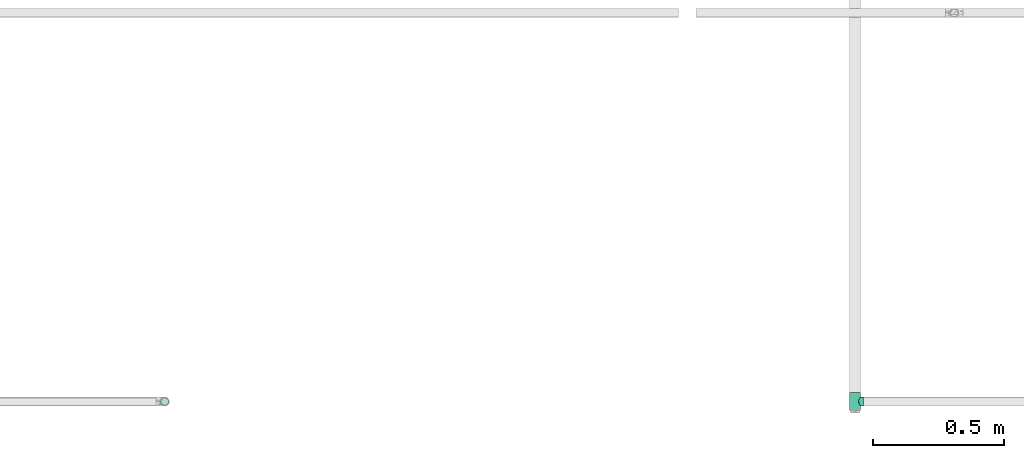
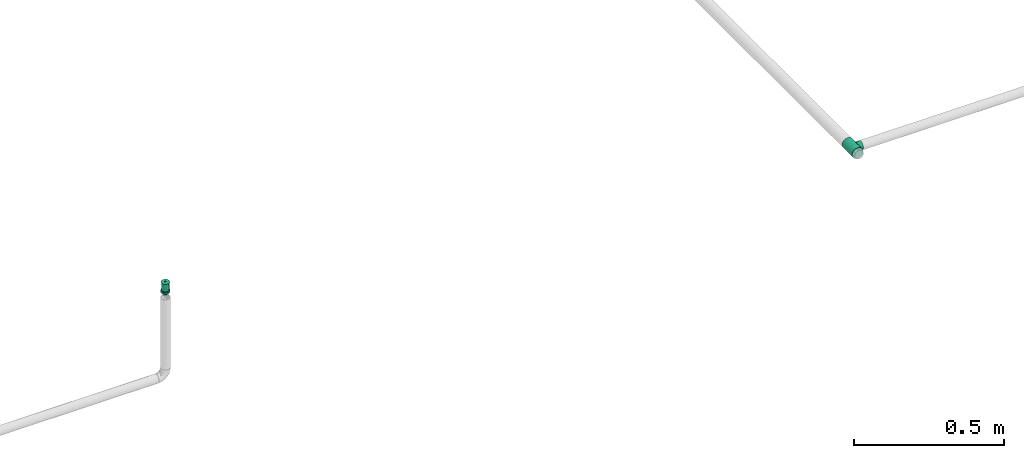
# One storey, part 24 of 63: 1 flow fitting, 1 flow terminal.
"""IFC2X3 building model written with IfcOpenShell, lengths in millimetres."""

from ifc_helpers import new_model, entity, si_unit, converted_unit, derived_unit, direction, frame, origin_with_axes, place, context, subcontext, project, spatial, open_shell, surface_model, source, transform, mapped, type_object, element, save


model = new_model("IFC2X3")

# Units and contexts
model_context = context("Model", 3, precision=0.01, world=frame((0.0, 4.29681676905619e-09, 0.0)), true_north=direction((4.01073788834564e-13, 1.0)))
plan_context = context("Plan", 3, precision=0.01, world=frame((0.0, 4.29681676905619e-09, 0.0)), true_north=direction((4.01073788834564e-13, 1.0)))
body_context = subcontext(model_context, "Body", "Model", "MODEL_VIEW")
ifc_project = project(units=[converted_unit("PLANEANGLEUNIT", "DEGREE", entity("IfcPositiveLengthMeasure", 0.0174532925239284), si_unit("PLANEANGLEUNIT", "RADIAN"), dimensions=[0, 0, 0, 0, 0, 0, 0]), si_unit("AREAUNIT", "SQUARE_METRE"), si_unit("LENGTHUNIT", "METRE", prefix="MILLI"), si_unit("MASSUNIT", "GRAM", prefix="KILO"), si_unit("POWERUNIT", "WATT"), si_unit("PRESSUREUNIT", "PASCAL", prefix="KILO"), si_unit("FORCEUNIT", "NEWTON", prefix="KILO"), si_unit("ELECTRICVOLTAGEUNIT", "VOLT"), si_unit("ELECTRICCURRENTUNIT", "AMPERE"), si_unit("THERMODYNAMICTEMPERATUREUNIT", "DEGREE_CELSIUS"), si_unit("TIMEUNIT", "SECOND"), si_unit("VOLUMEUNIT", "CUBIC_METRE"), derived_unit("LINEARVELOCITYUNIT", [(si_unit("LENGTHUNIT", "METRE"), 1), (si_unit("TIMEUNIT", "SECOND"), -1)]), derived_unit("VOLUMETRICFLOWRATEUNIT", [(si_unit("VOLUMEUNIT", "CUBIC_METRE"), 1), (si_unit("TIMEUNIT", "SECOND"), -1)]), derived_unit("THERMALTRANSMITTANCEUNIT", [(si_unit("POWERUNIT", "WATT"), 1), (si_unit("THERMODYNAMICTEMPERATUREUNIT", "KELVIN"), -1), (si_unit("AREAUNIT", "SQUARE_METRE"), -1)]), derived_unit("SOUNDPRESSUREUNIT", [(si_unit("PRESSUREUNIT", "PASCAL"), 1)])], contexts=[model_context, plan_context])

# Site, building, storey
site_placement = place(None, frame((0.0, -4.29681676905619e-09, 0.0), z_axis=(0.0, 0.0, 1.0), x_axis=(1.0, 0.0, 0.0)))
site = spatial("IfcSite", under=ifc_project, at=site_placement, CompositionType="ELEMENT")
building_placement = place(site_placement, frame((0.0, 4.29681676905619e-09, 0.0), z_axis=(0.0, 0.0, 1.0), x_axis=(1.0, 0.0, 0.0)))
building = spatial("IfcBuilding", under=site, at=building_placement, Name="mc-building", CompositionType="ELEMENT")
storey_placement = place(building_placement, frame((0.0, 0.0, 207370.0), z_axis=(0.0, 0.0, 1.0), x_axis=(1.0, 0.0, 0.0)))
storey = spatial("IfcBuildingStorey", under=building, at=storey_placement, Name="Nivå E", CompositionType="ELEMENT", Elevation=207370.0)

# Flow fitting
pipe_fitting_type = type_object("IfcPipeFittingType", Name="magi_pipe_fe_tee_centric_90_NOR", PredefinedType="JUNCTION")
shared_shape_1 = source(origin_with_axes(), body_context, "Body", "SurfaceModel", [
    surface_model("IfcShellBasedSurfaceModel", [(-33.8, 0.0, -21.2), (-33.8, -5.48696, -20.47763), (-33.8, 5.48696, -20.47763), (-33.8, 10.6, -18.35974), (-33.8, 14.99066, -14.99066), (-33.8, -20.47763, 5.48696), (-33.8, 18.35974, -10.6), (-33.8, 10.6, 18.35974), (-33.8, -14.99066, -14.99066), (-33.8, -18.35974, -10.6), (-33.8, -10.6, -18.35974), (-33.8, -20.47763, -5.48696), (-33.8, -21.2, 0.0), (-33.8, 18.35974, 10.6), (-33.8, 20.47763, -5.48696), (-33.8, 20.47763, 5.48696), (-33.8, 21.2, 0.0), (-33.8, 14.99066, 14.99066), (-33.8, 5.48696, 20.47763), (-33.8, 0.0, 21.2), (-33.8, -18.35974, 10.6), (-33.8, -14.99066, 14.99066), (-33.8, -10.6, 18.35974), (-33.8, -5.48696, 20.47763), (33.8, 5.48696, -20.47763), (33.8, -5.48696, -20.47763), (33.8, 0.0, -21.2), (33.8, 14.99066, -14.99066), (33.8, 10.6, -18.35974), (33.8, 18.35974, -10.6), (33.8, 20.47763, -5.48696), (33.8, -21.2, 0.0), (33.8, -10.6, -18.35974), (33.8, -18.35974, -10.6), (33.8, -14.99066, -14.99066), (33.8, -20.47763, -5.48696), (33.8, -20.47763, 5.48696), (33.8, 21.2, 0.0), (33.8, 20.47763, 5.48696), (33.8, 18.35974, 10.6), (33.8, 10.6, 18.35974), (33.8, 14.99066, 14.99066), (33.8, 0.0, 21.2), (33.8, 5.48696, 20.47763), (33.8, -14.99066, 14.99066), (33.8, -18.35974, 10.6), (33.8, -10.6, 18.35974), (33.8, -5.48696, 20.47763), (16.9, -21.2, 0.0), (15.78624, -20.32327, 6.03364), (12.81343, -18.11115, 11.01935), (8.52479, -15.37862, 14.59239), (3.07939, -13.16482, 16.61708), (-16.9, -21.2, 0.0), (-15.78686, -20.32375, 6.032), (-8.52604, -15.37932, 14.59166), (-3.0848, -13.16609, 16.61608), (-12.81602, -18.11299, 11.01634), (3.07939, -13.16482, -16.61708), (12.81343, -18.11115, -11.01935), (8.52479, -15.37862, -14.59239), (15.78624, -20.32327, -6.03364), (-3.0848, -13.16609, -16.61608), (-8.52604, -15.37932, -14.59166), (-12.81602, -18.11299, -11.01634), (-15.78686, -20.32375, -6.032), (4.37404, -31.8, -16.32415), (-16.9, -31.8, 0.0), (0.0, -31.8, -16.9), (14.63583, -31.8, -8.45), (8.45, -31.8, -14.63583), (16.32415, -31.8, -4.37404), (11.9501, -31.8, -11.9501), (-11.9501, -31.8, -11.9501), (-8.45, -31.8, -14.63583), (-4.37404, -31.8, -16.32415), (-14.63583, -31.8, -8.45), (-16.32415, -31.8, -4.37404), (16.9, -31.8, 0.0), (8.45, -31.8, 14.63583), (16.32415, -31.8, 4.37404), (14.63583, -31.8, 8.45), (-8.45, -31.8, 14.63583), (11.9501, -31.8, 11.9501), (4.37404, -31.8, 16.32415), (-16.32415, -31.8, 4.37404), (-11.9501, -31.8, 11.9501), (-14.63583, -31.8, 8.45), (0.0, -31.8, 16.9), (-4.37404, -31.8, 16.32415), (-16.34343, -20.76188, 3.016), (16.34312, -20.76163, 3.01682), (-0.00271, -13.16546, 16.61658), (16.34312, -20.76163, -3.01682), (-0.00271, -13.16546, -16.61658), (-16.34343, -20.76188, -3.016)], [open_shell([[[0, 1, 2]], [[3, 2, 4]], [[5, 2, 1]], [[4, 2, 6]], [[6, 2, 7]], [[8, 9, 10]], [[1, 10, 9]], [[9, 11, 1]], [[12, 1, 11]], [[5, 1, 12]], [[13, 14, 6]], [[13, 15, 16]], [[6, 7, 13]], [[5, 7, 2]], [[17, 13, 7]], [[18, 7, 19]], [[20, 21, 5]], [[22, 5, 21]], [[23, 19, 22]], [[7, 5, 22]], [[22, 19, 7]], [[16, 14, 13]], [[24, 25, 26]], [[27, 24, 28]], [[29, 30, 24]], [[29, 24, 27]], [[31, 24, 30]], [[32, 33, 34]], [[33, 32, 25]], [[33, 31, 35]], [[31, 33, 25]], [[25, 24, 31]], [[30, 36, 31]], [[37, 38, 39]], [[37, 39, 40]], [[37, 40, 36]], [[40, 39, 41]], [[42, 40, 43]], [[36, 44, 45]], [[44, 36, 46]], [[46, 42, 47]], [[46, 36, 40]], [[40, 42, 46]], [[37, 36, 30]], [[31, 36, 48]], [[49, 48, 36]], [[36, 45, 49]], [[45, 44, 50]], [[51, 50, 44]], [[52, 51, 44]], [[44, 46, 52]], [[45, 50, 49]], [[53, 54, 5]], [[5, 12, 53]], [[54, 20, 5]], [[55, 56, 21]], [[20, 57, 21]], [[57, 20, 54]], [[21, 57, 55]], [[56, 22, 21]], [[52, 22, 56]], [[19, 47, 42]], [[23, 46, 47]], [[18, 42, 43]], [[39, 38, 15]], [[17, 40, 41]], [[13, 41, 39]], [[43, 40, 7]], [[16, 38, 37]], [[22, 46, 23]], [[23, 47, 19]], [[18, 19, 42]], [[43, 7, 18]], [[7, 40, 17]], [[13, 17, 41]], [[15, 13, 39]], [[38, 16, 15]], [[46, 22, 52]], [[6, 30, 29]], [[14, 37, 30]], [[4, 29, 27]], [[26, 25, 1]], [[2, 28, 24]], [[0, 24, 26]], [[27, 28, 3]], [[10, 25, 32]], [[16, 37, 14]], [[14, 30, 6]], [[4, 6, 29]], [[27, 3, 4]], [[3, 28, 2]], [[0, 2, 24]], [[1, 0, 26]], [[25, 10, 1]], [[32, 58, 10]], [[34, 59, 60]], [[59, 34, 33]], [[60, 58, 34]], [[34, 58, 32]], [[35, 31, 48]], [[35, 61, 33]], [[61, 35, 48]], [[33, 61, 59]], [[62, 63, 8]], [[8, 64, 9]], [[64, 8, 63]], [[62, 8, 10]], [[65, 53, 11]], [[65, 11, 9]], [[11, 53, 12]], [[65, 9, 64]], [[58, 62, 10]], [[66, 67, 68]], [[69, 66, 70]], [[69, 71, 66]], [[69, 70, 72]], [[67, 66, 71]], [[68, 73, 74]], [[74, 75, 68]], [[76, 67, 77]], [[73, 68, 76]], [[67, 76, 68]], [[71, 78, 67]], [[79, 78, 80]], [[79, 80, 81]], [[82, 67, 79]], [[79, 81, 83]], [[82, 79, 84]], [[85, 86, 87]], [[86, 85, 82]], [[82, 88, 89]], [[85, 67, 82]], [[84, 88, 82]], [[79, 67, 78]], [[85, 90, 67]], [[57, 87, 86]], [[85, 87, 54]], [[86, 82, 55]], [[85, 54, 90]], [[90, 53, 67]], [[54, 87, 57]], [[91, 49, 80]], [[55, 89, 56]], [[55, 57, 86]], [[88, 52, 92]], [[55, 82, 89]], [[52, 88, 84]], [[79, 51, 84]], [[50, 83, 81]], [[83, 51, 79]], [[81, 80, 49]], [[83, 50, 51]], [[51, 52, 84]], [[78, 91, 80]], [[49, 50, 81]], [[91, 78, 48]], [[88, 56, 89]], [[92, 56, 88]], [[71, 93, 78]], [[59, 69, 72]], [[71, 69, 61]], [[72, 70, 60]], [[93, 48, 78]], [[61, 69, 59]], [[60, 66, 58]], [[60, 59, 72]], [[68, 62, 94]], [[60, 70, 66]], [[95, 67, 53]], [[95, 65, 77]], [[71, 61, 93]], [[75, 62, 68]], [[65, 76, 77]], [[73, 76, 64]], [[68, 58, 66]], [[75, 63, 62]], [[63, 75, 74]], [[74, 73, 63]], [[63, 73, 64]], [[64, 76, 65]], [[67, 95, 77]], [[94, 58, 68]]])]),
])
flow_fitting_placement = place(storey_placement, frame((719641.29045, 434695.91689, 2700.0), z_axis=(0.0, 0.0, -1.0), x_axis=(0.0, -1.0, 0.0)))
element("IfcFlowFitting", 1, at=flow_fitting_placement, inside=storey, type_object=pipe_fitting_type, Name="magi_pipe_fe_tee_centric_90_NOR", context=body_context, shape_type="MappedRepresentation", body=[
    mapped(shared_shape_1, transform((0.0, 0.0, 0.0), scale=1.0)),
])

# Flow terminal
fire_suppression_terminal_type = type_object("IfcFireSuppressionTerminalType", Name="68DGR-STD-STÅENDE", PredefinedType="NOTDEFINED")
shared_shape_2 = source(origin_with_axes(), body_context, "Body", "SurfaceModel", [
    surface_model("IfcShellBasedSurfaceModel", [(3.36465, -12.55704, 51.0), (6.5, -11.25833, 51.0), (9.19239, -9.19239, 51.0), (12.55704, -3.36465, 51.0), (-11.25833, -6.5, 51.0), (11.25833, -6.5, 51.0), (-13.0, 0.0, 51.0), (0.0, -13.0, 51.0), (-6.5, -11.25833, 51.0), (-3.36465, -12.55704, 51.0), (-9.19239, -9.19239, 51.0), (-12.55704, -3.36465, 51.0), (13.0, 0.0, 51.0), (12.55704, 3.36465, 51.0), (11.25833, 6.5, 51.0), (9.19239, 9.19239, 51.0), (6.5, 11.25833, 51.0), (3.36465, 12.55704, 51.0), (0.0, 13.0, 51.0), (-3.36465, 12.55704, 51.0), (-12.55704, 3.36465, 51.0), (-9.19239, 9.19239, 51.0), (-11.25833, 6.5, 51.0), (-6.5, 11.25833, 51.0), (0.0, 13.0, 21.14766), (3.36465, 12.55704, 21.14766), (6.5, 11.25833, 21.14766), (-3.36465, 12.55704, 21.14766), (9.19239, 9.19239, 21.14766), (11.25833, 6.5, 21.14766), (12.55704, 3.36465, 21.14766), (-12.55704, 3.36465, 21.14766), (-11.25833, -6.5, 21.14766), (-9.19239, 9.19239, 21.14766), (-6.5, 11.25833, 21.14766), (-11.25833, 6.5, 21.14766), (-13.0, 0.0, 21.14766), (12.55704, -3.36465, 21.14766), (9.19239, -9.19239, 21.14766), (11.25833, -6.5, 21.14766), (6.5, -11.25833, 21.14766), (3.36465, -12.55704, 21.14766), (-6.5, -11.25833, 21.14766), (-9.19239, -9.19239, 21.14766), (-12.55704, -3.36465, 21.14766), (0.0, -13.0, 21.14766), (-3.36465, -12.55704, 21.14766), (13.0, 0.0, 21.14766), (7.24444, -1.94114, 0.1), (1.94114, -7.24444, 0.1), (3.75, -6.49519, 0.1), (5.3033, -5.3033, 0.1), (-5.3033, -5.3033, 0.1), (6.49519, -3.75, 0.1), (5.3033, 5.3033, 0.1), (0.0, -7.5, 0.1), (-3.75, -6.49519, 0.1), (-1.94114, -7.24444, 0.1), (-7.24444, -1.94114, 0.1), (-6.49519, -3.75, 0.1), (-7.24444, 1.94114, 0.1), (7.5, 0.0, 0.1), (6.49519, 3.75, 0.1), (-6.49519, 3.75, 0.1), (1.94114, 7.24444, 0.1), (0.0, 7.5, 0.1), (3.75, 6.49519, 0.1), (-7.5, 0.0, 0.1), (-5.3033, 5.3033, 0.1), (-1.94114, 7.24444, 0.1), (-3.75, 6.49519, 0.1), (7.24444, 1.94114, 0.1), (1.94114, 7.24444, -0.1), (-6.49519, 3.75, -0.1), (0.0, 7.5, -0.1), (5.3033, 5.3033, -0.1), (3.75, 6.49519, -0.1), (6.49519, 3.75, -0.1), (7.24444, 1.94114, -0.1), (-1.94114, 7.24444, -0.1), (-5.3033, 5.3033, -0.1), (-3.75, 6.49519, -0.1), (-7.24444, 1.94114, -0.1), (-7.24444, -1.94114, -0.1), (-7.5, 0.0, -0.1), (7.5, 0.0, -0.1), (7.24444, -1.94114, -0.1), (-5.3033, -5.3033, -0.1), (1.94114, -7.24444, -0.1), (6.49519, -3.75, -0.1), (5.3033, -5.3033, -0.1), (3.75, -6.49519, -0.1), (-6.49519, -3.75, -0.1), (-3.75, -6.49519, -0.1), (0.0, -7.5, -0.1), (-1.94114, -7.24444, -0.1), (0.0, -2.5, 51.0), (-2.5, 0.0, 51.0), (0.0, 2.5, 51.0), (2.5, 0.0, 51.0), (0.0, -16.0, 53.0), (11.31371, -11.31371, 53.0), (-11.31371, -11.31371, 53.0), (-16.0, 0.0, 53.0), (16.0, 0.0, 53.0), (11.31371, 11.31371, 53.0), (0.0, 16.0, 53.0), (-11.31371, 11.31371, 53.0), (1.25, -2.16506, 57.0), (0.0, -2.5, 57.0), (0.64705, -2.41481, 57.0), (2.41481, -0.64705, 57.0), (1.76777, -1.76777, 57.0), (-2.41481, -0.64705, 57.0), (-2.5, 0.0, 57.0), (2.16506, -1.25, 57.0), (-1.25, -2.16506, 57.0), (-0.64705, -2.41481, 57.0), (-1.76777, -1.76777, 57.0), (-2.16506, -1.25, 57.0), (2.5, 0.0, 57.0), (2.41481, 0.64705, 57.0), (2.16506, 1.25, 57.0), (1.76777, 1.76777, 57.0), (0.64705, 2.41481, 57.0), (1.25, 2.16506, 57.0), (-1.76777, 1.76777, 57.0), (0.0, 2.5, 57.0), (-2.16506, 1.25, 57.0), (-2.41481, 0.64705, 57.0), (-0.64705, 2.41481, 57.0), (-1.25, 2.16506, 57.0), (1.25, 2.16506, 51.0), (1.76777, 1.76777, 51.0), (1.15, 1.99186, 51.0), (0.59528, 2.22163, 51.0), (0.64705, 2.41481, 51.0), (0.0, 2.3, 51.0), (1.62635, 1.62635, 51.0), (2.41481, 0.64705, 51.0), (2.3, 0.0, 51.0), (2.22163, 0.59528, 51.0), (2.16506, 1.25, 51.0), (1.99186, 1.15, 51.0), (-0.59528, 2.22163, 51.0), (-0.64705, 2.41481, 51.0), (-1.15, 1.99186, 51.0), (-1.76777, 1.76777, 51.0), (-1.25, 2.16506, 51.0), (-1.62635, 1.62635, 51.0), (-1.99186, 1.15, 51.0), (-2.16506, 1.25, 51.0), (-2.22163, 0.59528, 51.0), (-2.41481, 0.64705, 51.0), (-2.3, 0.0, 51.0), (2.41481, -0.64705, 51.0), (2.22163, -0.59528, 51.0), (1.99186, -1.15, 51.0), (2.16506, -1.25, 51.0), (1.62635, -1.62635, 51.0), (1.76777, -1.76777, 51.0), (1.25, -2.16506, 51.0), (1.15, -1.99186, 51.0), (0.59528, -2.22163, 51.0), (0.64705, -2.41481, 51.0), (0.0, -2.3, 51.0), (-2.16506, -1.25, 51.0), (-1.99186, -1.15, 51.0), (-1.76777, -1.76777, 51.0), (-1.62635, -1.62635, 51.0), (-2.41481, -0.64705, 51.0), (-2.22163, -0.59528, 51.0), (-0.59528, -2.22163, 51.0), (-0.64705, -2.41481, 51.0), (-1.15, -1.99186, 51.0), (-1.25, -2.16506, 51.0), (1.62635, -1.62635, 56.8), (1.15, -1.99186, 56.8), (0.59528, -2.22163, 56.8), (0.0, -2.3, 56.8), (2.22163, 0.59528, 56.8), (1.99186, -1.15, 56.8), (2.22163, -0.59528, 56.8), (-0.59528, -2.22163, 56.8), (-1.15, -1.99186, 56.8), (-1.62635, -1.62635, 56.8), (-1.99186, -1.15, 56.8), (-2.22163, -0.59528, 56.8), (-1.99186, 1.15, 56.8), (2.3, 0.0, 56.8), (1.62635, 1.62635, 56.8), (1.99186, 1.15, 56.8), (1.15, 1.99186, 56.8), (0.0, 2.3, 56.8), (0.59528, 2.22163, 56.8), (-2.22163, 0.59528, 56.8), (-2.3, 0.0, 56.8), (-1.15, 1.99186, 56.8), (-0.59528, 2.22163, 56.8), (-1.62635, 1.62635, 56.8), (4.1411, -15.45481, 19.0), (8.0, -13.85641, 19.0), (11.31371, -11.31371, 19.0), (-8.0, -13.85641, 19.0), (15.45481, -4.1411, 19.0), (16.0, 0.0, 19.0), (13.85641, -8.0, 19.0), (0.0, -16.0, 19.0), (-4.1411, -15.45481, 19.0), (-13.85641, -8.0, 19.0), (-11.31371, -11.31371, 19.0), (-15.45481, -4.1411, 19.0), (15.45481, 4.1411, 19.0), (13.85641, 8.0, 19.0), (11.31371, 11.31371, 19.0), (-4.1411, 15.45481, 19.0), (8.0, 13.85641, 19.0), (4.1411, 15.45481, 19.0), (0.0, 16.0, 19.0), (-13.85641, 8.0, 19.0), (-15.45481, 4.1411, 19.0), (-16.0, 0.0, 19.0), (-11.31371, 11.31371, 19.0), (-8.0, 13.85641, 19.0), (0.0, 16.0, 13.0), (4.1411, 15.45481, 13.0), (8.0, 13.85641, 13.0), (-4.1411, 15.45481, 13.0), (11.31371, 11.31371, 13.0), (13.85641, 8.0, 13.0), (15.45481, 4.1411, 13.0), (-15.45481, -4.1411, 13.0), (-11.31371, 11.31371, 13.0), (-8.0, 13.85641, 13.0), (-13.85641, 8.0, 13.0), (-15.45481, 4.1411, 13.0), (-16.0, 0.0, 13.0), (4.1411, -15.45481, 13.0), (16.0, 0.0, 13.0), (15.45481, -4.1411, 13.0), (13.85641, -8.0, 13.0), (11.31371, -11.31371, 13.0), (8.0, -13.85641, 13.0), (-8.0, -13.85641, 13.0), (-13.85641, -8.0, 13.0), (-11.31371, -11.31371, 13.0), (0.0, -16.0, 13.0), (-4.1411, -15.45481, 13.0), (7.24444, -1.94114, 13.0), (1.94114, -7.24444, 13.0), (3.75, -6.49519, 13.0), (5.3033, -5.3033, 13.0), (-5.3033, -5.3033, 13.0), (6.49519, -3.75, 13.0), (5.3033, 5.3033, 13.0), (0.0, -7.5, 13.0), (-3.75, -6.49519, 13.0), (-1.94114, -7.24444, 13.0), (-7.24444, -1.94114, 13.0), (-6.49519, -3.75, 13.0), (-7.24444, 1.94114, 13.0), (7.5, 0.0, 13.0), (6.49519, 3.75, 13.0), (-6.49519, 3.75, 13.0), (1.94114, 7.24444, 13.0), (0.0, 7.5, 13.0), (3.75, 6.49519, 13.0), (-7.5, 0.0, 13.0), (-5.3033, 5.3033, 13.0), (-1.94114, 7.24444, 13.0), (-3.75, 6.49519, 13.0), (7.24444, 1.94114, 13.0), (3.75, 6.49519, 0.0), (5.3033, 5.3033, 0.0), (3.65, 6.32199, 0.0), (1.88938, 7.05126, 0.0), (0.0, 7.3, 0.0), (1.94114, 7.24444, 0.0), (0.0, 7.5, 0.0), (5.16188, 5.16188, 0.0), (7.24444, 1.94114, 0.0), (7.3, 0.0, 0.0), (7.05126, 1.88938, 0.0), (7.5, 0.0, 0.0), (6.49519, 3.75, 0.0), (6.32199, 3.65, 0.0), (-1.88938, 7.05126, 0.0), (-1.94114, 7.24444, 0.0), (-3.65, 6.32199, 0.0), (-5.3033, 5.3033, 0.0), (-3.75, 6.49519, 0.0), (-5.16188, 5.16188, 0.0), (-6.32199, 3.65, 0.0), (-6.49519, 3.75, 0.0), (-7.05126, 1.88938, 0.0), (-7.24444, 1.94114, 0.0), (-7.3, 0.0, 0.0), (-7.5, 0.0, 0.0), (7.24444, -1.94114, 0.0), (7.05126, -1.88938, 0.0), (6.32199, -3.65, 0.0), (6.49519, -3.75, 0.0), (5.16188, -5.16188, 0.0), (5.3033, -5.3033, 0.0), (3.75, -6.49519, 0.0), (3.65, -6.32199, 0.0), (1.88938, -7.05126, 0.0), (1.94114, -7.24444, 0.0), (0.0, -7.3, 0.0), (0.0, -7.5, 0.0), (-6.49519, -3.75, 0.0), (-6.32199, -3.65, 0.0), (-5.3033, -5.3033, 0.0), (-5.16188, -5.16188, 0.0), (-7.24444, -1.94114, 0.0), (-7.05126, -1.88938, 0.0), (-1.88938, -7.05126, 0.0), (-1.94114, -7.24444, 0.0), (-3.65, -6.32199, 0.0), (-3.75, -6.49519, 0.0), (1.88938, -7.05126, 12.8), (0.0, -7.3, 12.8), (3.65, -6.32199, 12.8), (5.16188, -5.16188, 12.8), (6.32199, -3.65, 12.8), (7.05126, 1.88938, 12.8), (7.05126, -1.88938, 12.8), (-5.16188, -5.16188, 12.8), (-1.88938, -7.05126, 12.8), (-3.65, -6.32199, 12.8), (-6.32199, -3.65, 12.8), (-7.05126, -1.88938, 12.8), (0.0, 7.3, 12.8), (7.3, 0.0, 12.8), (6.32199, 3.65, 12.8), (5.16188, 5.16188, 12.8), (3.65, 6.32199, 12.8), (1.88938, 7.05126, 12.8), (-6.32199, 3.65, 12.8), (-7.05126, 1.88938, 12.8), (-7.3, 0.0, 12.8), (-3.65, 6.32199, 12.8), (-1.88938, 7.05126, 12.8), (-5.16188, 5.16188, 12.8)], [open_shell([[[0, 1, 2]], [[0, 2, 3]], [[0, 3, 4]], [[3, 2, 5]], [[6, 4, 3]], [[7, 8, 9]], [[7, 0, 8]], [[8, 4, 10]], [[0, 4, 8]], [[4, 6, 11]], [[6, 3, 12]], [[13, 14, 15]], [[6, 13, 15]], [[16, 17, 18]], [[15, 16, 19]], [[18, 19, 16]], [[20, 21, 22]], [[20, 6, 15]], [[21, 19, 23]], [[19, 21, 20]], [[15, 19, 20]], [[13, 6, 12]], [[24, 25, 26]], [[27, 24, 26]], [[28, 29, 30]], [[26, 28, 31]], [[28, 32, 31]], [[27, 33, 34]], [[33, 27, 31]], [[33, 31, 35]], [[27, 26, 31]], [[31, 32, 36]], [[32, 28, 30]], [[32, 30, 37]], [[38, 37, 39]], [[38, 40, 41]], [[38, 41, 37]], [[32, 37, 41]], [[32, 42, 43]], [[44, 36, 32]], [[42, 45, 46]], [[42, 32, 41]], [[45, 42, 41]], [[30, 47, 37]], [[4, 32, 43]], [[8, 42, 46]], [[43, 42, 10]], [[9, 46, 45]], [[36, 11, 6]], [[11, 36, 44]], [[11, 44, 4]], [[44, 32, 4]], [[43, 10, 4]], [[8, 10, 42]], [[46, 9, 8]], [[45, 7, 9]], [[0, 41, 40]], [[38, 1, 40]], [[5, 39, 37]], [[38, 39, 2]], [[3, 37, 47]], [[41, 0, 7]], [[40, 1, 0]], [[38, 2, 1]], [[39, 5, 2]], [[3, 5, 37]], [[47, 12, 3]], [[41, 7, 45]], [[30, 13, 47]], [[29, 14, 30]], [[25, 24, 17]], [[15, 29, 28]], [[30, 14, 13]], [[13, 12, 47]], [[16, 26, 17]], [[16, 15, 28]], [[26, 25, 17]], [[15, 14, 29]], [[28, 26, 16]], [[24, 18, 17]], [[19, 27, 34]], [[33, 23, 34]], [[22, 35, 31]], [[33, 35, 21]], [[20, 31, 36]], [[27, 19, 18]], [[34, 23, 19]], [[33, 21, 23]], [[35, 22, 21]], [[20, 22, 31]], [[36, 6, 20]], [[27, 18, 24]], [[48, 49, 50]], [[48, 50, 51]], [[49, 48, 52]], [[48, 51, 53]], [[54, 52, 48]], [[55, 56, 57]], [[56, 55, 52]], [[52, 58, 59]], [[52, 55, 49]], [[52, 60, 58]], [[54, 48, 61]], [[62, 54, 61]], [[54, 63, 52]], [[64, 65, 54]], [[64, 54, 66]], [[63, 54, 65]], [[63, 60, 52]], [[67, 58, 60]], [[68, 69, 70]], [[69, 68, 63]], [[69, 63, 65]], [[71, 62, 61]], [[72, 73, 74]], [[75, 72, 76]], [[75, 77, 78]], [[72, 75, 73]], [[78, 73, 75]], [[79, 80, 81]], [[80, 79, 73]], [[74, 73, 79]], [[78, 82, 73]], [[82, 83, 84]], [[82, 78, 85]], [[86, 87, 85]], [[88, 86, 89]], [[90, 91, 88]], [[90, 88, 89]], [[87, 86, 88]], [[83, 87, 92]], [[83, 85, 87]], [[93, 94, 95]], [[94, 93, 87]], [[88, 94, 87]], [[85, 83, 82]], [[83, 58, 84]], [[92, 59, 83]], [[56, 87, 93]], [[92, 87, 52]], [[57, 93, 95]], [[83, 59, 58]], [[58, 67, 84]], [[57, 56, 93]], [[52, 87, 56]], [[52, 59, 92]], [[55, 57, 95]], [[95, 94, 55]], [[88, 49, 94]], [[91, 50, 88]], [[53, 90, 89]], [[91, 90, 51]], [[48, 89, 86]], [[91, 51, 50]], [[50, 49, 88]], [[61, 48, 86]], [[53, 89, 48]], [[53, 51, 90]], [[85, 61, 86]], [[94, 49, 55]], [[78, 71, 85]], [[77, 62, 78]], [[66, 75, 76]], [[77, 75, 54]], [[64, 76, 72]], [[78, 62, 71]], [[71, 61, 85]], [[64, 66, 76]], [[54, 75, 66]], [[54, 62, 77]], [[65, 64, 72]], [[72, 74, 65]], [[79, 69, 74]], [[81, 70, 79]], [[63, 80, 73]], [[81, 80, 68]], [[60, 73, 82]], [[81, 68, 70]], [[70, 69, 79]], [[67, 60, 82]], [[63, 73, 60]], [[63, 68, 80]], [[84, 67, 82]], [[74, 69, 65]], [[96, 97, 98]], [[98, 99, 96]], [[100, 101, 102]], [[103, 102, 101]], [[101, 104, 103]], [[104, 105, 106]], [[107, 103, 106]], [[106, 103, 104]], [[99, 98, 105]], [[105, 104, 99]], [[98, 106, 105]], [[98, 107, 106]], [[107, 98, 97]], [[103, 107, 97]], [[97, 96, 102]], [[102, 103, 97]], [[96, 100, 102]], [[96, 101, 100]], [[101, 96, 99]], [[104, 101, 99]], [[108, 109, 110]], [[111, 108, 112]], [[113, 108, 114]], [[111, 112, 115]], [[108, 111, 114]], [[109, 116, 117]], [[116, 109, 118]], [[118, 113, 119]], [[118, 109, 108]], [[108, 113, 118]], [[111, 120, 114]], [[121, 122, 123]], [[114, 121, 123]], [[114, 123, 124]], [[124, 123, 125]], [[126, 124, 127]], [[124, 128, 129]], [[129, 114, 124]], [[126, 130, 131]], [[128, 124, 126]], [[130, 126, 127]], [[121, 114, 120]], [[132, 133, 134]], [[132, 134, 135]], [[136, 135, 137]], [[135, 136, 132]], [[136, 137, 98]], [[134, 133, 138]], [[139, 140, 141]], [[140, 139, 99]], [[139, 141, 142]], [[138, 142, 143]], [[142, 138, 133]], [[143, 142, 141]], [[98, 144, 145]], [[98, 137, 144]], [[145, 144, 146]], [[147, 148, 149]], [[146, 148, 145]], [[149, 148, 146]], [[150, 151, 147]], [[151, 150, 152]], [[150, 147, 149]], [[153, 152, 154]], [[152, 153, 151]], [[153, 154, 97]], [[99, 155, 156]], [[156, 155, 157]], [[157, 158, 159]], [[158, 157, 155]], [[159, 158, 160]], [[160, 161, 162]], [[162, 161, 163]], [[163, 164, 165]], [[164, 163, 161]], [[165, 164, 96]], [[162, 159, 160]], [[166, 167, 168]], [[168, 167, 169]], [[167, 166, 170]], [[97, 171, 170]], [[170, 171, 167]], [[97, 154, 171]], [[172, 96, 173]], [[172, 173, 174]], [[169, 175, 168]], [[175, 169, 174]], [[175, 174, 173]], [[165, 96, 172]], [[156, 140, 99]], [[170, 113, 97]], [[166, 119, 170]], [[116, 168, 175]], [[166, 168, 118]], [[117, 175, 173]], [[170, 119, 113]], [[113, 114, 97]], [[117, 116, 175]], [[118, 168, 116]], [[118, 119, 166]], [[109, 117, 173]], [[173, 96, 109]], [[164, 110, 96]], [[161, 108, 164]], [[115, 160, 158]], [[161, 160, 112]], [[111, 158, 155]], [[161, 112, 108]], [[108, 110, 164]], [[120, 111, 155]], [[115, 158, 111]], [[115, 112, 160]], [[99, 120, 155]], [[96, 110, 109]], [[139, 121, 99]], [[142, 122, 139]], [[125, 133, 132]], [[142, 133, 123]], [[124, 132, 136]], [[139, 122, 121]], [[121, 120, 99]], [[124, 125, 132]], [[123, 133, 125]], [[123, 122, 142]], [[127, 124, 136]], [[136, 98, 127]], [[145, 130, 98]], [[148, 131, 145]], [[128, 147, 151]], [[148, 147, 126]], [[129, 151, 153]], [[148, 126, 131]], [[131, 130, 145]], [[114, 129, 153]], [[128, 151, 129]], [[128, 126, 147]], [[97, 114, 153]], [[98, 130, 127]], [[176, 177, 178]], [[176, 178, 179]], [[180, 176, 179]], [[181, 176, 182]], [[180, 182, 176]], [[183, 184, 179]], [[185, 179, 184]], [[186, 187, 185]], [[185, 187, 188]], [[179, 185, 188]], [[189, 182, 180]], [[190, 191, 180]], [[192, 190, 180]], [[193, 194, 192]], [[180, 193, 192]], [[188, 193, 180]], [[195, 188, 196]], [[196, 188, 187]], [[197, 198, 199]], [[188, 199, 198]], [[188, 198, 193]], [[180, 179, 188]], [[154, 187, 171]], [[171, 186, 167]], [[174, 169, 184]], [[185, 169, 167]], [[172, 174, 183]], [[187, 186, 171]], [[154, 196, 187]], [[174, 184, 183]], [[184, 169, 185]], [[167, 186, 185]], [[172, 183, 179]], [[179, 165, 172]], [[165, 178, 163]], [[163, 177, 162]], [[157, 159, 181]], [[176, 159, 162]], [[156, 157, 182]], [[177, 176, 162]], [[163, 178, 177]], [[156, 182, 189]], [[182, 157, 181]], [[159, 176, 181]], [[156, 189, 140]], [[179, 178, 165]], [[140, 180, 141]], [[141, 191, 143]], [[134, 138, 192]], [[190, 138, 143]], [[135, 134, 194]], [[180, 191, 141]], [[140, 189, 180]], [[134, 192, 194]], [[192, 138, 190]], [[143, 191, 190]], [[135, 194, 193]], [[193, 137, 135]], [[137, 198, 144]], [[144, 197, 146]], [[150, 149, 188]], [[199, 149, 146]], [[152, 150, 195]], [[197, 199, 146]], [[144, 198, 197]], [[152, 195, 196]], [[195, 150, 188]], [[149, 199, 188]], [[152, 196, 154]], [[193, 198, 137]], [[200, 201, 202]], [[203, 200, 202]], [[204, 205, 202]], [[204, 202, 206]], [[203, 202, 205]], [[207, 203, 208]], [[207, 200, 203]], [[203, 209, 210]], [[209, 203, 211]], [[205, 211, 203]], [[205, 212, 211]], [[212, 213, 214]], [[215, 212, 214]], [[216, 217, 218]], [[214, 216, 215]], [[218, 215, 216]], [[211, 219, 220]], [[221, 211, 220]], [[222, 215, 223]], [[215, 222, 219]], [[219, 211, 215]], [[211, 212, 215]], [[224, 225, 226]], [[227, 224, 226]], [[228, 229, 230]], [[227, 226, 228]], [[227, 228, 231]], [[227, 232, 233]], [[232, 227, 234]], [[234, 231, 235]], [[231, 234, 227]], [[235, 231, 236]], [[228, 230, 231]], [[237, 238, 239]], [[237, 239, 240]], [[241, 242, 237]], [[241, 237, 240]], [[238, 237, 243]], [[244, 243, 245]], [[243, 244, 231]], [[243, 246, 247]], [[243, 231, 238]], [[237, 246, 243]], [[238, 231, 230]], [[231, 211, 236]], [[244, 209, 231]], [[203, 245, 243]], [[244, 245, 210]], [[208, 243, 247]], [[231, 209, 211]], [[211, 221, 236]], [[208, 203, 243]], [[210, 245, 203]], [[210, 209, 244]], [[207, 208, 247]], [[247, 246, 207]], [[237, 200, 246]], [[242, 201, 237]], [[206, 241, 240]], [[242, 241, 202]], [[204, 240, 239]], [[242, 202, 201]], [[201, 200, 237]], [[205, 204, 239]], [[206, 240, 204]], [[206, 202, 241]], [[238, 205, 239]], [[246, 200, 207]], [[230, 212, 238]], [[229, 213, 230]], [[216, 228, 226]], [[229, 228, 214]], [[217, 226, 225]], [[230, 213, 212]], [[212, 205, 238]], [[217, 216, 226]], [[214, 228, 216]], [[214, 213, 229]], [[218, 217, 225]], [[225, 224, 218]], [[227, 215, 224]], [[233, 223, 227]], [[219, 232, 234]], [[233, 232, 222]], [[220, 234, 235]], [[233, 222, 223]], [[223, 215, 227]], [[221, 220, 235]], [[219, 234, 220]], [[219, 222, 232]], [[236, 221, 235]], [[224, 215, 218]], [[248, 249, 250]], [[248, 250, 251]], [[249, 248, 252]], [[248, 251, 253]], [[254, 252, 248]], [[255, 256, 257]], [[256, 255, 252]], [[252, 258, 259]], [[252, 255, 249]], [[252, 260, 258]], [[254, 248, 261]], [[262, 254, 261]], [[254, 263, 252]], [[264, 265, 254]], [[264, 254, 266]], [[263, 254, 265]], [[263, 260, 252]], [[267, 258, 260]], [[268, 269, 270]], [[269, 268, 263]], [[269, 263, 265]], [[271, 262, 261]], [[272, 273, 274]], [[272, 274, 275]], [[276, 277, 275]], [[277, 276, 278]], [[275, 277, 272]], [[274, 273, 279]], [[280, 281, 282]], [[281, 280, 283]], [[280, 282, 284]], [[279, 284, 285]], [[284, 279, 273]], [[285, 284, 282]], [[278, 286, 287]], [[287, 286, 288]], [[289, 290, 291]], [[288, 290, 287]], [[288, 291, 290]], [[278, 276, 286]], [[292, 293, 289]], [[293, 292, 294]], [[292, 289, 291]], [[295, 294, 296]], [[294, 295, 293]], [[295, 296, 297]], [[283, 298, 299]], [[299, 298, 300]], [[300, 301, 302]], [[301, 300, 298]], [[302, 301, 303]], [[303, 304, 305]], [[305, 304, 306]], [[306, 307, 308]], [[307, 306, 304]], [[308, 307, 309]], [[305, 302, 303]], [[310, 311, 312]], [[312, 311, 313]], [[311, 310, 314]], [[297, 315, 314]], [[314, 315, 311]], [[297, 296, 315]], [[316, 309, 317]], [[316, 317, 318]], [[313, 319, 312]], [[313, 318, 319]], [[319, 318, 317]], [[308, 309, 316]], [[299, 281, 283]], [[314, 258, 297]], [[310, 259, 314]], [[256, 312, 319]], [[310, 312, 252]], [[257, 319, 317]], [[314, 259, 258]], [[258, 267, 297]], [[257, 256, 319]], [[252, 312, 256]], [[252, 259, 310]], [[255, 257, 317]], [[317, 309, 255]], [[307, 249, 309]], [[304, 250, 307]], [[253, 303, 301]], [[304, 303, 251]], [[248, 301, 298]], [[304, 251, 250]], [[250, 249, 307]], [[261, 248, 298]], [[253, 301, 248]], [[253, 251, 303]], [[283, 261, 298]], [[309, 249, 255]], [[280, 271, 283]], [[284, 262, 280]], [[266, 273, 272]], [[284, 273, 254]], [[264, 272, 277]], [[280, 262, 271]], [[271, 261, 283]], [[264, 266, 272]], [[254, 273, 266]], [[254, 262, 284]], [[265, 264, 277]], [[277, 278, 265]], [[287, 269, 278]], [[290, 270, 287]], [[263, 289, 293]], [[290, 289, 268]], [[260, 293, 295]], [[290, 268, 270]], [[270, 269, 287]], [[267, 260, 295]], [[263, 293, 260]], [[263, 268, 289]], [[297, 267, 295]], [[278, 269, 265]], [[320, 321, 322]], [[323, 322, 324]], [[325, 326, 322]], [[324, 322, 326]], [[322, 327, 325]], [[328, 329, 321]], [[327, 321, 329]], [[330, 331, 327]], [[322, 321, 327]], [[331, 332, 327]], [[326, 325, 333]], [[334, 325, 332]], [[335, 334, 336]], [[332, 337, 336]], [[334, 332, 336]], [[331, 338, 332]], [[339, 338, 340]], [[340, 338, 331]], [[341, 342, 343]], [[332, 338, 343]], [[332, 343, 342]], [[332, 325, 327]], [[296, 331, 315]], [[315, 330, 311]], [[318, 313, 329]], [[327, 313, 311]], [[316, 318, 328]], [[331, 330, 315]], [[296, 340, 331]], [[318, 329, 328]], [[329, 313, 327]], [[311, 330, 327]], [[316, 328, 321]], [[321, 308, 316]], [[308, 320, 306]], [[306, 322, 305]], [[300, 302, 324]], [[323, 302, 305]], [[299, 300, 326]], [[322, 323, 305]], [[306, 320, 322]], [[299, 326, 333]], [[326, 300, 324]], [[302, 323, 324]], [[299, 333, 281]], [[321, 320, 308]], [[281, 325, 282]], [[282, 334, 285]], [[274, 279, 336]], [[335, 279, 285]], [[275, 274, 337]], [[325, 334, 282]], [[281, 333, 325]], [[274, 336, 337]], [[336, 279, 335]], [[285, 334, 335]], [[275, 337, 332]], [[332, 276, 275]], [[276, 342, 286]], [[286, 341, 288]], [[292, 291, 338]], [[343, 291, 288]], [[294, 292, 339]], [[341, 343, 288]], [[286, 342, 341]], [[294, 339, 340]], [[339, 292, 338]], [[291, 343, 338]], [[294, 340, 296]], [[332, 342, 276]]])]),
])
flow_terminal_placement = place(storey_placement, frame((717003.72245, 434695.91689, 3027.71994000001), z_axis=(0.0, 0.0, 1.0), x_axis=(1.0, 0.0, 0.0)))
element("IfcFlowTerminal", 2, at=flow_terminal_placement, inside=storey, type_object=fire_suppression_terminal_type, Name="68DGR-STD-STÅENDE", context=body_context, shape_type="MappedRepresentation", body=[
    mapped(shared_shape_2, transform((0.0, 0.0, 0.0), scale=1.0)),
])

save(model, "model.ifc")
